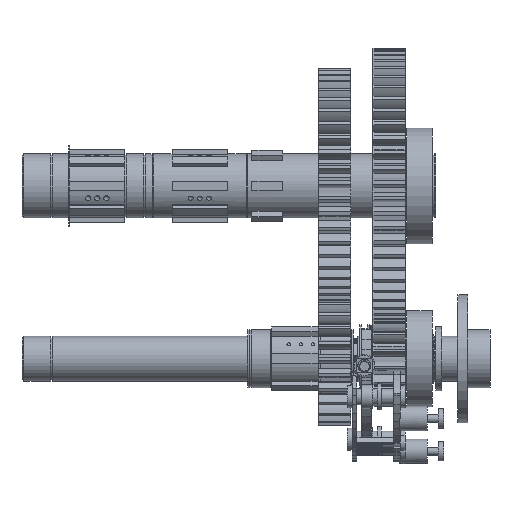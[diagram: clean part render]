
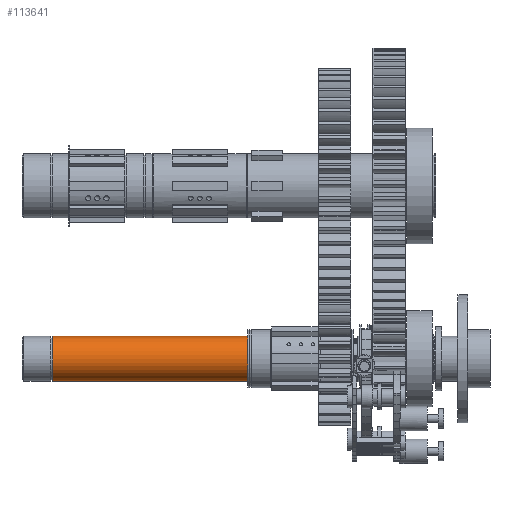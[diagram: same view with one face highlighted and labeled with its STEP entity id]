
A CAD part, front view. The second image highlights one B-rep face of the part: STEP entity #113641.
In plain terms, the highlighted cylindrical face has radius 7 mm (diameter 14 mm), a full revolution.
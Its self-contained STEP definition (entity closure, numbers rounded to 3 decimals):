
#102769 = PLANE('',#102770);
#102770 = AXIS2_PLACEMENT_3D('',#102771,#102772,#102773);
#102771 = CARTESIAN_POINT('',(6.5,-49.893,-53.918));
#102772 = DIRECTION('',(1.,0.,0.));
#102773 = DIRECTION('',(-0.,1.,0.));
#106682 = EDGE_CURVE('',#106683,#106683,#106685,.T.);
#106683 = VERTEX_POINT('',#106684);
#106684 = CARTESIAN_POINT('',(6.5,-42.893,-53.918));
#106685 = SURFACE_CURVE('',#106686,(#106691,#106698),.PCURVE_S1.);
#106686 = CIRCLE('',#106687,7.);
#106687 = AXIS2_PLACEMENT_3D('',#106688,#106689,#106690);
#106688 = CARTESIAN_POINT('',(6.5,-49.893,-53.918));
#106689 = DIRECTION('',(1.,0.,0.));
#106690 = DIRECTION('',(-0.,1.,0.));
#106691 = PCURVE('',#102769,#106692);
#106692 = DEFINITIONAL_REPRESENTATION('',(#106693),#106697);
#106693 = CIRCLE('',#106694,7.);
#106694 = AXIS2_PLACEMENT_2D('',#106695,#106696);
#106695 = CARTESIAN_POINT('',(0.,0.));
#106696 = DIRECTION('',(1.,0.));
#106697 = ( GEOMETRIC_REPRESENTATION_CONTEXT(2) 
PARAMETRIC_REPRESENTATION_CONTEXT() REPRESENTATION_CONTEXT('2D SPACE',''
  ) );
#106698 = PCURVE('',#106699,#106704);
#106699 = CYLINDRICAL_SURFACE('',#106700,7.);
#106700 = AXIS2_PLACEMENT_3D('',#106701,#106702,#106703);
#106701 = CARTESIAN_POINT('',(-64.,-49.893,-53.918));
#106702 = DIRECTION('',(1.,0.,0.));
#106703 = DIRECTION('',(-0.,1.,0.));
#106704 = DEFINITIONAL_REPRESENTATION('',(#106705),#106709);
#106705 = LINE('',#106706,#106707);
#106706 = CARTESIAN_POINT('',(0.,70.5));
#106707 = VECTOR('',#106708,1.);
#106708 = DIRECTION('',(1.,0.));
#106709 = ( GEOMETRIC_REPRESENTATION_CONTEXT(2) 
PARAMETRIC_REPRESENTATION_CONTEXT() REPRESENTATION_CONTEXT('2D SPACE',''
  ) );
#113641 = ADVANCED_FACE('',(#113642),#106699,.T.);
#113642 = FACE_BOUND('',#113643,.T.);
#113643 = EDGE_LOOP('',(#113644,#113673,#113694,#113695));
#113644 = ORIENTED_EDGE('',*,*,#113645,.T.);
#113645 = EDGE_CURVE('',#113646,#113646,#113648,.T.);
#113646 = VERTEX_POINT('',#113647);
#113647 = CARTESIAN_POINT('',(-54.47,-42.893,-53.918));
#113648 = SURFACE_CURVE('',#113649,(#113654,#113661),.PCURVE_S1.);
#113649 = CIRCLE('',#113650,7.);
#113650 = AXIS2_PLACEMENT_3D('',#113651,#113652,#113653);
#113651 = CARTESIAN_POINT('',(-54.47,-49.893,-53.918));
#113652 = DIRECTION('',(1.,0.,0.));
#113653 = DIRECTION('',(-0.,1.,0.));
#113654 = PCURVE('',#106699,#113655);
#113655 = DEFINITIONAL_REPRESENTATION('',(#113656),#113660);
#113656 = LINE('',#113657,#113658);
#113657 = CARTESIAN_POINT('',(0.,9.53));
#113658 = VECTOR('',#113659,1.);
#113659 = DIRECTION('',(1.,0.));
#113660 = ( GEOMETRIC_REPRESENTATION_CONTEXT(2) 
PARAMETRIC_REPRESENTATION_CONTEXT() REPRESENTATION_CONTEXT('2D SPACE',''
  ) );
#113661 = PCURVE('',#113662,#113667);
#113662 = PLANE('',#113663);
#113663 = AXIS2_PLACEMENT_3D('',#113664,#113665,#113666);
#113664 = CARTESIAN_POINT('',(-54.47,-49.893,-53.918));
#113665 = DIRECTION('',(1.,0.,0.));
#113666 = DIRECTION('',(-0.,1.,0.));
#113667 = DEFINITIONAL_REPRESENTATION('',(#113668),#113672);
#113668 = CIRCLE('',#113669,7.);
#113669 = AXIS2_PLACEMENT_2D('',#113670,#113671);
#113670 = CARTESIAN_POINT('',(0.,0.));
#113671 = DIRECTION('',(1.,0.));
#113672 = ( GEOMETRIC_REPRESENTATION_CONTEXT(2) 
PARAMETRIC_REPRESENTATION_CONTEXT() REPRESENTATION_CONTEXT('2D SPACE',''
  ) );
#113673 = ORIENTED_EDGE('',*,*,#113674,.T.);
#113674 = EDGE_CURVE('',#113646,#106683,#113675,.T.);
#113675 = SEAM_CURVE('',#113676,(#113680,#113687),.PCURVE_S1.);
#113676 = LINE('',#113677,#113678);
#113677 = CARTESIAN_POINT('',(-64.,-42.893,-53.918));
#113678 = VECTOR('',#113679,1.);
#113679 = DIRECTION('',(1.,0.,0.));
#113680 = PCURVE('',#106699,#113681);
#113681 = DEFINITIONAL_REPRESENTATION('',(#113682),#113686);
#113682 = LINE('',#113683,#113684);
#113683 = CARTESIAN_POINT('',(6.283,0.));
#113684 = VECTOR('',#113685,1.);
#113685 = DIRECTION('',(0.,1.));
#113686 = ( GEOMETRIC_REPRESENTATION_CONTEXT(2) 
PARAMETRIC_REPRESENTATION_CONTEXT() REPRESENTATION_CONTEXT('2D SPACE',''
  ) );
#113687 = PCURVE('',#106699,#113688);
#113688 = DEFINITIONAL_REPRESENTATION('',(#113689),#113693);
#113689 = LINE('',#113690,#113691);
#113690 = CARTESIAN_POINT('',(0.,0.));
#113691 = VECTOR('',#113692,1.);
#113692 = DIRECTION('',(0.,1.));
#113693 = ( GEOMETRIC_REPRESENTATION_CONTEXT(2) 
PARAMETRIC_REPRESENTATION_CONTEXT() REPRESENTATION_CONTEXT('2D SPACE',''
  ) );
#113694 = ORIENTED_EDGE('',*,*,#106682,.F.);
#113695 = ORIENTED_EDGE('',*,*,#113674,.F.);
